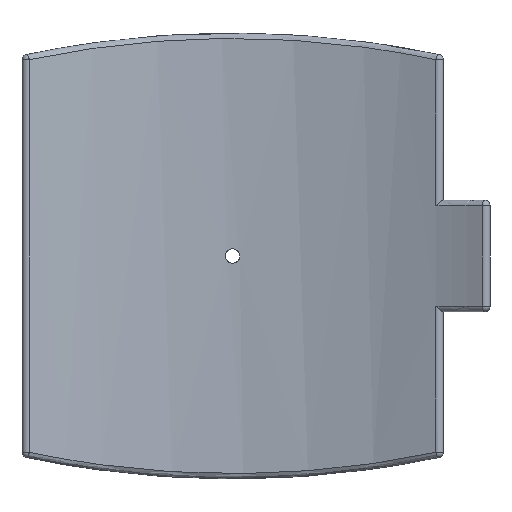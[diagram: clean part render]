
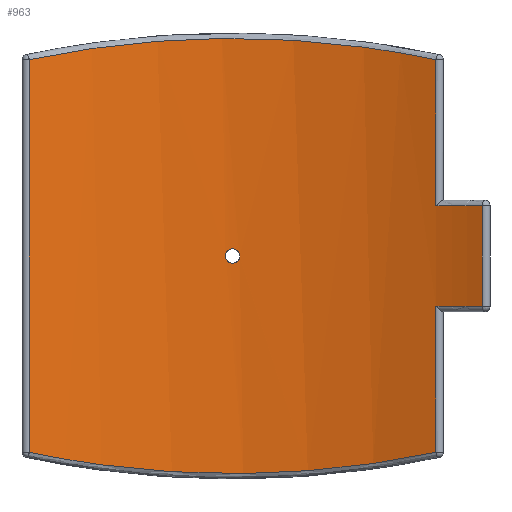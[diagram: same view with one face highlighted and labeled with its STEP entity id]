
A CAD part, front view. The second image highlights one B-rep face of the part: STEP entity #963.
In plain terms, the highlighted cylindrical face has radius 354 mm (diameter 708 mm), a partial arc.
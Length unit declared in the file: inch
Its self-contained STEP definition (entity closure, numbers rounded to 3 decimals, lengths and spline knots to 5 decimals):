
#45=B_SPLINE_CURVE_WITH_KNOTS('',3,(#1814,#1815,#1816,#1817,#1818,#1819,
#1820,#1821,#1822,#1823,#1824,#1825,#1826,#1827,#1828,#1829,#1830,#1831,
#1832,#1833,#1834,#1835,#1836,#1837,#1838,#1839,#1840,#1841,#1842,#1843,
#1844,#1845,#1846,#1847),.UNSPECIFIED.,.T.,.F.,(4,2,2,2,2,2,2,2,2,2,2,2,
2,2,2,2,4),(0.,0.18081,0.36162,0.54244,0.72325,
0.90406,1.08487,1.26568,1.4465,1.62731,
1.80812,1.98893,2.16974,2.35056,2.53137,
2.71218,2.89299),.UNSPECIFIED.);
#51=B_SPLINE_CURVE_WITH_KNOTS('',3,(#2199,#2200,#2201,#2202,#2203,#2204,
#2205,#2206,#2207,#2208),.UNSPECIFIED.,.F.,.F.,(4,1,1,1,1,1,1,4),(-33.25362,
-29.17303,-25.09244,-21.01185,-16.93126,
-12.85066,-8.77007,-4.68948),.UNSPECIFIED.);
#57=B_SPLINE_CURVE_WITH_KNOTS('',3,(#2343,#2344,#2345,#2346,#2347,#2348,
#2349,#2350,#2351,#2352),.UNSPECIFIED.,.F.,.F.,(4,1,1,1,1,1,1,4),(-30.29532,
-26.21473,-22.13413,-18.05354,-13.97295,-9.89236,
-5.81177,-1.73118),.UNSPECIFIED.);
#78=LINE('',#2138,#118);
#82=LINE('',#2223,#122);
#89=LINE('',#2262,#129);
#94=LINE('',#2371,#134);
#118=VECTOR('',#1327,0.3937);
#122=VECTOR('',#1343,0.3937);
#129=VECTOR('',#1366,0.3937);
#134=VECTOR('',#1391,0.3937);
#166=CYLINDRICAL_SURFACE('',#1114,13.93701);
#177=FACE_BOUND('',#332,.T.);
#255=FACE_OUTER_BOUND('',#331,.T.);
#331=EDGE_LOOP('',(#875,#876,#877,#878,#879,#880,#881,#882));
#332=EDGE_LOOP('',(#883));
#398=CIRCLE('',#1089,13.93701);
#401=CIRCLE('',#1097,13.93701);
#433=VERTEX_POINT('',#1812);
#451=VERTEX_POINT('',#1951);
#456=VERTEX_POINT('',#2027);
#465=VERTEX_POINT('',#2053);
#466=VERTEX_POINT('',#2057);
#471=VERTEX_POINT('',#2130);
#476=VERTEX_POINT('',#2146);
#478=VERTEX_POINT('',#2222);
#482=VERTEX_POINT('',#2266);
#520=EDGE_CURVE('',#433,#433,#45,.T.);
#580=EDGE_CURVE('',#471,#465,#78,.T.);
#586=EDGE_CURVE('',#466,#476,#51,.T.);
#589=EDGE_CURVE('',#476,#478,#82,.T.);
#592=EDGE_CURVE('',#478,#471,#398,.T.);
#601=EDGE_CURVE('',#456,#466,#89,.T.);
#603=EDGE_CURVE('',#465,#482,#401,.T.);
#611=EDGE_CURVE('',#451,#456,#57,.T.);
#615=EDGE_CURVE('',#482,#451,#94,.T.);
#875=ORIENTED_EDGE('',*,*,#586,.F.);
#876=ORIENTED_EDGE('',*,*,#601,.F.);
#877=ORIENTED_EDGE('',*,*,#611,.F.);
#878=ORIENTED_EDGE('',*,*,#615,.F.);
#879=ORIENTED_EDGE('',*,*,#603,.F.);
#880=ORIENTED_EDGE('',*,*,#580,.F.);
#881=ORIENTED_EDGE('',*,*,#592,.F.);
#882=ORIENTED_EDGE('',*,*,#589,.F.);
#883=ORIENTED_EDGE('',*,*,#520,.T.);
#963=ADVANCED_FACE('',(#255,#177),#166,.F.);
#1089=AXIS2_PLACEMENT_3D('',#2239,#1348,#1349);
#1097=AXIS2_PLACEMENT_3D('',#2267,#1371,#1372);
#1114=AXIS2_PLACEMENT_3D('',#2387,#1415,#1416);
#1327=DIRECTION('',(0.,0.,-1.));
#1343=DIRECTION('',(0.,0.,-1.));
#1348=DIRECTION('center_axis',(0.,0.,-1.));
#1349=DIRECTION('ref_axis',(0.445,0.895,0.));
#1366=DIRECTION('',(0.,0.,1.));
#1371=DIRECTION('center_axis',(0.,0.,1.));
#1372=DIRECTION('ref_axis',(0.445,0.895,0.));
#1391=DIRECTION('',(0.,0.,-1.));
#1415=DIRECTION('center_axis',(0.,0.,1.));
#1416=DIRECTION('ref_axis',(-1.,0.,0.));
#1812=CARTESIAN_POINT('',(0.18898,13.93573,0.));
#1814=CARTESIAN_POINT('Ctrl Pts',(0.18898,13.93573,0.));
#1815=CARTESIAN_POINT('Ctrl Pts',(0.18898,13.93573,-0.02373));
#1816=CARTESIAN_POINT('Ctrl Pts',(0.18423,13.93579,-0.04904));
#1817=CARTESIAN_POINT('Ctrl Pts',(0.16495,13.93604,-0.0956));
#1818=CARTESIAN_POINT('Ctrl Pts',(0.1504,13.93621,-0.11685));
#1819=CARTESIAN_POINT('Ctrl Pts',(0.11685,13.93653,-0.1504));
#1820=CARTESIAN_POINT('Ctrl Pts',(0.0956,13.9367,-0.16495));
#1821=CARTESIAN_POINT('Ctrl Pts',(0.04904,13.93694,-0.18423));
#1822=CARTESIAN_POINT('Ctrl Pts',(0.02373,13.93701,-0.18898));
#1823=CARTESIAN_POINT('Ctrl Pts',(-0.02373,13.93701,-0.18898));
#1824=CARTESIAN_POINT('Ctrl Pts',(-0.04904,13.93694,
-0.18423));
#1825=CARTESIAN_POINT('Ctrl Pts',(-0.0956,13.9367,
-0.16495));
#1826=CARTESIAN_POINT('Ctrl Pts',(-0.11685,13.93653,-0.1504));
#1827=CARTESIAN_POINT('Ctrl Pts',(-0.1504,13.93621,-0.11685));
#1828=CARTESIAN_POINT('Ctrl Pts',(-0.16495,13.93604,-0.0956));
#1829=CARTESIAN_POINT('Ctrl Pts',(-0.18423,13.93579,-0.04904));
#1830=CARTESIAN_POINT('Ctrl Pts',(-0.18898,13.93573,-0.02373));
#1831=CARTESIAN_POINT('Ctrl Pts',(-0.18898,13.93573,0.02373));
#1832=CARTESIAN_POINT('Ctrl Pts',(-0.18423,13.93579,0.04904));
#1833=CARTESIAN_POINT('Ctrl Pts',(-0.16495,13.93604,0.0956));
#1834=CARTESIAN_POINT('Ctrl Pts',(-0.1504,13.93621,0.11685));
#1835=CARTESIAN_POINT('Ctrl Pts',(-0.11685,13.93653,0.1504));
#1836=CARTESIAN_POINT('Ctrl Pts',(-0.0956,13.9367,
0.16495));
#1837=CARTESIAN_POINT('Ctrl Pts',(-0.04904,13.93694,
0.18423));
#1838=CARTESIAN_POINT('Ctrl Pts',(-0.02373,13.93701,0.18898));
#1839=CARTESIAN_POINT('Ctrl Pts',(0.02373,13.93701,0.18898));
#1840=CARTESIAN_POINT('Ctrl Pts',(0.04904,13.93694,0.18423));
#1841=CARTESIAN_POINT('Ctrl Pts',(0.0956,13.9367,0.16495));
#1842=CARTESIAN_POINT('Ctrl Pts',(0.11685,13.93653,0.1504));
#1843=CARTESIAN_POINT('Ctrl Pts',(0.1504,13.93621,0.11685));
#1844=CARTESIAN_POINT('Ctrl Pts',(0.16495,13.93604,0.0956));
#1845=CARTESIAN_POINT('Ctrl Pts',(0.18423,13.93579,0.04904));
#1846=CARTESIAN_POINT('Ctrl Pts',(0.18898,13.93573,0.02373));
#1847=CARTESIAN_POINT('Ctrl Pts',(0.18898,13.93573,0.));
#1951=CARTESIAN_POINT('',(5.38676,12.85391,-5.20156));
#2027=CARTESIAN_POINT('',(-5.38676,12.85391,-5.20156));
#2053=CARTESIAN_POINT('',(6.61449,12.26739,-1.33688));
#2057=CARTESIAN_POINT('',(-5.38676,12.85391,5.20156));
#2130=CARTESIAN_POINT('',(6.61449,12.26739,1.33688));
#2138=CARTESIAN_POINT('',(6.61449,12.26739,0.));
#2146=CARTESIAN_POINT('',(5.38676,12.85391,5.20156));
#2199=CARTESIAN_POINT('Ctrl Pts',(-5.38676,12.85391,5.20156));
#2200=CARTESIAN_POINT('Ctrl Pts',(-4.90664,13.05512,5.3032));
#2201=CARTESIAN_POINT('Ctrl Pts',(-3.91976,13.40537,5.48366));
#2202=CARTESIAN_POINT('Ctrl Pts',(-2.37794,13.7632,5.67257));
#2203=CARTESIAN_POINT('Ctrl Pts',(-0.79692,13.94456,5.76966));
#2204=CARTESIAN_POINT('Ctrl Pts',(0.79693,13.94457,5.76968));
#2205=CARTESIAN_POINT('Ctrl Pts',(2.37781,13.76321,5.67256));
#2206=CARTESIAN_POINT('Ctrl Pts',(3.91977,13.40538,5.48367));
#2207=CARTESIAN_POINT('Ctrl Pts',(4.9066,13.05513,5.30321));
#2208=CARTESIAN_POINT('Ctrl Pts',(5.38676,12.85391,5.20156));
#2222=CARTESIAN_POINT('',(5.38676,12.85391,1.33688));
#2223=CARTESIAN_POINT('',(5.38676,12.85391,0.));
#2239=CARTESIAN_POINT('Origin',(0.,0.,1.33688));
#2262=CARTESIAN_POINT('',(-5.38676,12.85391,0.));
#2266=CARTESIAN_POINT('',(5.38676,12.85391,-1.33688));
#2267=CARTESIAN_POINT('Origin',(0.,0.,-1.33688));
#2343=CARTESIAN_POINT('Ctrl Pts',(5.38676,12.85391,-5.20156));
#2344=CARTESIAN_POINT('Ctrl Pts',(4.9066,13.05513,-5.30321));
#2345=CARTESIAN_POINT('Ctrl Pts',(3.91976,13.40537,-5.48367));
#2346=CARTESIAN_POINT('Ctrl Pts',(2.37782,13.76321,-5.67257));
#2347=CARTESIAN_POINT('Ctrl Pts',(0.79692,13.94456,-5.76968));
#2348=CARTESIAN_POINT('Ctrl Pts',(-0.79692,13.94456,-5.76966));
#2349=CARTESIAN_POINT('Ctrl Pts',(-2.37794,13.7632,-5.67256));
#2350=CARTESIAN_POINT('Ctrl Pts',(-3.91976,13.40537,-5.48366));
#2351=CARTESIAN_POINT('Ctrl Pts',(-4.90664,13.05512,-5.3032));
#2352=CARTESIAN_POINT('Ctrl Pts',(-5.38676,12.85391,-5.20156));
#2371=CARTESIAN_POINT('',(5.38676,12.85391,0.));
#2387=CARTESIAN_POINT('Origin',(0.,0.,0.));
